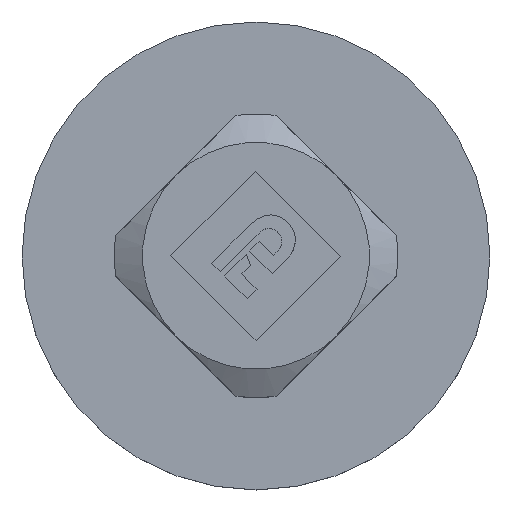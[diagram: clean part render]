
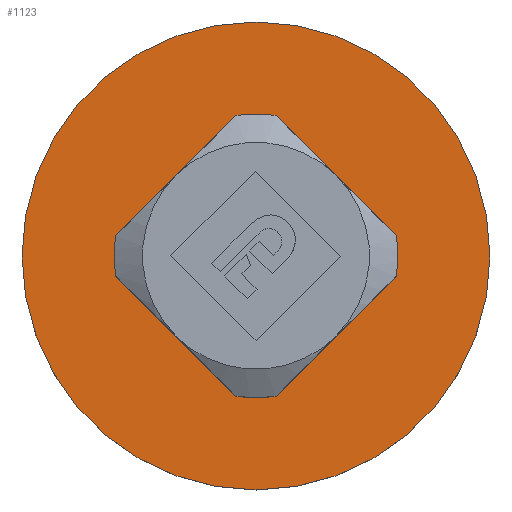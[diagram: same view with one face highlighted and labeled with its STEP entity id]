
A CAD part, top view. The second image highlights one B-rep face of the part: STEP entity #1123.
In plain terms, the highlighted planar face has unit normal (0, 0, 1).
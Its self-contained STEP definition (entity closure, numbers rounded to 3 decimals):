
#22=FACE_BOUND('',#406,.T.);
#54=PLANE('',#1229);
#173=LINE('',#1792,#256);
#176=LINE('',#1799,#259);
#177=LINE('',#1801,#260);
#178=LINE('',#1803,#261);
#256=VECTOR('',#1419,10.);
#259=VECTOR('',#1428,10.);
#260=VECTOR('',#1431,10.);
#261=VECTOR('',#1434,10.);
#334=FACE_OUTER_BOUND('',#405,.T.);
#405=EDGE_LOOP('',(#945,#946));
#406=EDGE_LOOP('',(#947,#948,#949,#950,#951,#952,#953,#954));
#441=CIRCLE('',#1181,10.);
#442=CIRCLE('',#1183,10.);
#443=CIRCLE('',#1185,10.);
#449=CIRCLE('',#1216,10.);
#454=CIRCLE('',#1227,16.5);
#455=CIRCLE('',#1228,16.5);
#487=VERTEX_POINT('',#1573);
#488=VERTEX_POINT('',#1575);
#489=VERTEX_POINT('',#1579);
#490=VERTEX_POINT('',#1581);
#491=VERTEX_POINT('',#1585);
#492=VERTEX_POINT('',#1587);
#542=VERTEX_POINT('',#1791);
#543=VERTEX_POINT('',#1795);
#548=VERTEX_POINT('',#1815);
#549=VERTEX_POINT('',#1816);
#601=EDGE_CURVE('',#488,#487,#441,.T.);
#604=EDGE_CURVE('',#490,#489,#442,.T.);
#607=EDGE_CURVE('',#492,#491,#443,.T.);
#681=EDGE_CURVE('',#542,#488,#173,.T.);
#683=EDGE_CURVE('',#543,#542,#449,.T.);
#685=EDGE_CURVE('',#491,#543,#176,.T.);
#686=EDGE_CURVE('',#489,#492,#177,.T.);
#687=EDGE_CURVE('',#487,#490,#178,.T.);
#692=EDGE_CURVE('',#548,#549,#454,.T.);
#693=EDGE_CURVE('',#549,#548,#455,.T.);
#945=ORIENTED_EDGE('',*,*,#692,.T.);
#946=ORIENTED_EDGE('',*,*,#693,.T.);
#947=ORIENTED_EDGE('',*,*,#687,.T.);
#948=ORIENTED_EDGE('',*,*,#604,.T.);
#949=ORIENTED_EDGE('',*,*,#686,.T.);
#950=ORIENTED_EDGE('',*,*,#607,.T.);
#951=ORIENTED_EDGE('',*,*,#685,.T.);
#952=ORIENTED_EDGE('',*,*,#683,.T.);
#953=ORIENTED_EDGE('',*,*,#681,.T.);
#954=ORIENTED_EDGE('',*,*,#601,.T.);
#1123=ADVANCED_FACE('',(#334,#22),#54,.T.);
#1181=AXIS2_PLACEMENT_3D('',#1576,#1287,#1288);
#1183=AXIS2_PLACEMENT_3D('',#1582,#1293,#1294);
#1185=AXIS2_PLACEMENT_3D('',#1588,#1299,#1300);
#1216=AXIS2_PLACEMENT_3D('',#1796,#1423,#1424);
#1227=AXIS2_PLACEMENT_3D('',#1817,#1449,#1450);
#1228=AXIS2_PLACEMENT_3D('',#1818,#1451,#1452);
#1229=AXIS2_PLACEMENT_3D('',#1820,#1454,#1455);
#1287=DIRECTION('center_axis',(0.,0.,-1.));
#1288=DIRECTION('ref_axis',(1.,0.,0.));
#1293=DIRECTION('center_axis',(0.,0.,-1.));
#1294=DIRECTION('ref_axis',(1.,0.,0.));
#1299=DIRECTION('center_axis',(0.,0.,-1.));
#1300=DIRECTION('ref_axis',(1.,0.,0.));
#1419=DIRECTION('',(0.707,0.707,0.));
#1423=DIRECTION('center_axis',(0.,0.,-1.));
#1424=DIRECTION('ref_axis',(1.,0.,0.));
#1428=DIRECTION('',(-0.707,0.707,0.));
#1431=DIRECTION('',(-0.707,-0.707,0.));
#1434=DIRECTION('',(0.707,-0.707,0.));
#1449=DIRECTION('center_axis',(0.,0.,1.));
#1450=DIRECTION('ref_axis',(1.,0.,0.));
#1451=DIRECTION('center_axis',(0.,0.,1.));
#1452=DIRECTION('ref_axis',(1.,0.,0.));
#1454=DIRECTION('center_axis',(0.,0.,1.));
#1455=DIRECTION('ref_axis',(1.,0.,0.));
#1573=CARTESIAN_POINT('',(1.414,9.899,13.5));
#1575=CARTESIAN_POINT('',(-1.414,9.899,13.5));
#1576=CARTESIAN_POINT('Origin',(0.,0.,13.5));
#1579=CARTESIAN_POINT('',(9.899,-1.414,13.5));
#1581=CARTESIAN_POINT('',(9.899,1.414,13.5));
#1582=CARTESIAN_POINT('Origin',(0.,0.,13.5));
#1585=CARTESIAN_POINT('',(-1.414,-9.899,13.5));
#1587=CARTESIAN_POINT('',(1.414,-9.899,13.5));
#1588=CARTESIAN_POINT('Origin',(0.,0.,13.5));
#1791=CARTESIAN_POINT('',(-9.899,1.414,13.5));
#1792=CARTESIAN_POINT('',(-9.778,1.536,13.5));
#1795=CARTESIAN_POINT('',(-9.899,-1.414,13.5));
#1796=CARTESIAN_POINT('Origin',(0.,0.,13.5));
#1799=CARTESIAN_POINT('',(-1.536,-9.778,13.5));
#1801=CARTESIAN_POINT('',(5.778,-5.536,13.5));
#1803=CARTESIAN_POINT('',(5.536,5.778,13.5));
#1815=CARTESIAN_POINT('',(0.,-16.5,13.5));
#1816=CARTESIAN_POINT('',(0.,16.5,13.5));
#1817=CARTESIAN_POINT('Origin',(0.,0.,13.5));
#1818=CARTESIAN_POINT('Origin',(0.,0.,13.5));
#1820=CARTESIAN_POINT('Origin',(0.,-8.,13.5));
